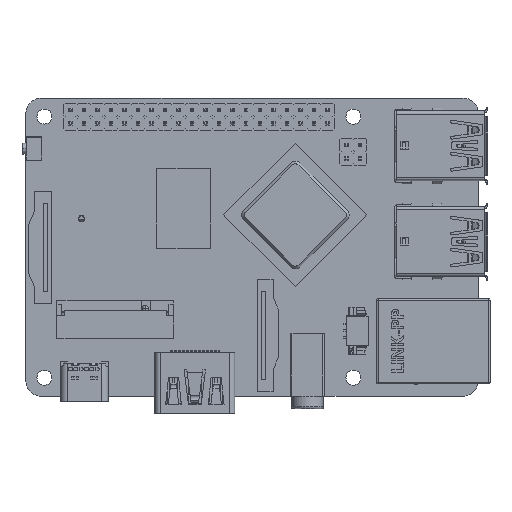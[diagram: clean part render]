
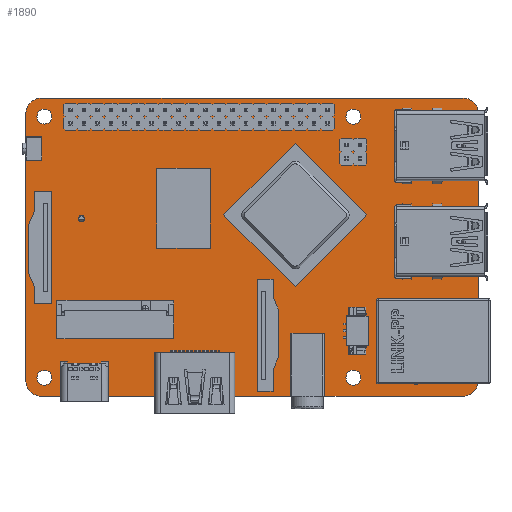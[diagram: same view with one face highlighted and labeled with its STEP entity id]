
A CAD part, top view. The second image highlights one B-rep face of the part: STEP entity #1890.
In plain terms, the highlighted planar face has unit normal (0, 0, 1).
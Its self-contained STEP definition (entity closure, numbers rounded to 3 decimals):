
#1287=CARTESIAN_POINT('',(-52.961,20.311,1.2));
#1288=DIRECTION('',(0.,0.,1.));
#1289=DIRECTION('',(0.,1.,0.));
#1290=AXIS2_PLACEMENT_3D('',#1287,#1288,#1289);
#1292=DIRECTION('',(-1.,0.,0.));
#1293=VECTOR('',#1292,79.032);
#1294=CARTESIAN_POINT('',(26.071,23.306,1.2));
#1295=LINE('',#1294,#1293);
#1296=CARTESIAN_POINT('',(26.071,20.333,1.2));
#1297=DIRECTION('',(0.,0.,1.));
#1298=DIRECTION('',(1.,0.,0.));
#1299=AXIS2_PLACEMENT_3D('',#1296,#1297,#1298);
#1301=DIRECTION('',(0.,1.,0.));
#1302=VECTOR('',#1301,49.938);
#1303=CARTESIAN_POINT('',(29.044,-29.605,1.2));
#1304=LINE('',#1303,#1302);
#1305=CARTESIAN_POINT('',(25.954,-29.605,1.2));
#1306=DIRECTION('',(0.,0.,1.));
#1307=DIRECTION('',(0.,-1.,0.));
#1308=AXIS2_PLACEMENT_3D('',#1305,#1306,#1307);
#1310=DIRECTION('',(1.,0.,0.));
#1311=VECTOR('',#1310,78.901);
#1312=CARTESIAN_POINT('',(-52.947,-32.694,1.2));
#1313=LINE('',#1312,#1311);
#1314=CARTESIAN_POINT('',(-52.947,-29.685,1.2));
#1315=DIRECTION('',(0.,0.,1.));
#1316=DIRECTION('',(-1.,0.,0.));
#1317=AXIS2_PLACEMENT_3D('',#1314,#1315,#1316);
#1319=DIRECTION('',(0.,-1.,0.));
#1320=VECTOR('',#1319,49.995);
#1321=CARTESIAN_POINT('',(-55.956,20.311,1.2));
#1322=LINE('',#1321,#1320);
#1323=CARTESIAN_POINT('',(-52.451,19.811,1.2));
#1324=DIRECTION('',(0.,0.,-1.));
#1325=DIRECTION('',(1.,0.,0.));
#1326=AXIS2_PLACEMENT_3D('',#1323,#1324,#1325);
#1328=CARTESIAN_POINT('',(-52.451,19.811,1.2));
#1329=DIRECTION('',(0.,0.,-1.));
#1330=DIRECTION('',(-1.,0.,0.));
#1331=AXIS2_PLACEMENT_3D('',#1328,#1329,#1330);
#1333=CARTESIAN_POINT('',(-52.458,-29.193,1.2));
#1334=DIRECTION('',(0.,0.,-1.));
#1335=DIRECTION('',(1.,0.,0.));
#1336=AXIS2_PLACEMENT_3D('',#1333,#1334,#1335);
#1338=CARTESIAN_POINT('',(-52.458,-29.193,1.2));
#1339=DIRECTION('',(0.,0.,-1.));
#1340=DIRECTION('',(-1.,0.,0.));
#1341=AXIS2_PLACEMENT_3D('',#1338,#1339,#1340);
#1343=CARTESIAN_POINT('',(5.543,19.808,1.2));
#1344=DIRECTION('',(0.,0.,-1.));
#1345=DIRECTION('',(1.,0.,0.));
#1346=AXIS2_PLACEMENT_3D('',#1343,#1344,#1345);
#1348=CARTESIAN_POINT('',(5.543,19.808,1.2));
#1349=DIRECTION('',(0.,0.,-1.));
#1350=DIRECTION('',(-1.,0.,0.));
#1351=AXIS2_PLACEMENT_3D('',#1348,#1349,#1350);
#1353=CARTESIAN_POINT('',(5.543,-29.187,1.2));
#1354=DIRECTION('',(0.,0.,-1.));
#1355=DIRECTION('',(1.,0.,0.));
#1356=AXIS2_PLACEMENT_3D('',#1353,#1354,#1355);
#1358=CARTESIAN_POINT('',(5.543,-29.187,1.2));
#1359=DIRECTION('',(0.,0.,-1.));
#1360=DIRECTION('',(-1.,0.,0.));
#1361=AXIS2_PLACEMENT_3D('',#1358,#1359,#1360);
#1363=CARTESIAN_POINT('',(-49.15,-16.818,1.2));
#1364=DIRECTION('',(0.,0.,1.));
#1365=DIRECTION('',(1.,0.,0.));
#1366=AXIS2_PLACEMENT_3D('',#1363,#1364,#1365);
#1368=CARTESIAN_POINT('',(-49.15,-16.818,1.2));
#1369=DIRECTION('',(0.,0.,1.));
#1370=DIRECTION('',(-1.,0.,0.));
#1371=AXIS2_PLACEMENT_3D('',#1368,#1369,#1370);
#1373=CARTESIAN_POINT('',(-29.15,-16.818,1.2));
#1374=DIRECTION('',(0.,0.,1.));
#1375=DIRECTION('',(1.,0.,0.));
#1376=AXIS2_PLACEMENT_3D('',#1373,#1374,#1375);
#1378=CARTESIAN_POINT('',(-29.15,-16.818,1.2));
#1379=DIRECTION('',(0.,0.,1.));
#1380=DIRECTION('',(-1.,0.,0.));
#1381=AXIS2_PLACEMENT_3D('',#1378,#1379,#1380);
#1383=CARTESIAN_POINT('',(-45.485,0.645,1.2));
#1384=DIRECTION('',(0.,0.,-1.));
#1385=DIRECTION('',(0.,-1.,0.));
#1386=AXIS2_PLACEMENT_3D('',#1383,#1384,#1385);
#1388=CARTESIAN_POINT('',(-45.485,0.645,1.2));
#1389=DIRECTION('',(0.,0.,-1.));
#1390=DIRECTION('',(0.,1.,0.));
#1391=AXIS2_PLACEMENT_3D('',#1388,#1389,#1390);
#1393=CARTESIAN_POINT('',(-45.485,-19.355,1.2));
#1394=DIRECTION('',(0.,0.,-1.));
#1395=DIRECTION('',(0.,-1.,0.));
#1396=AXIS2_PLACEMENT_3D('',#1393,#1394,#1395);
#1398=CARTESIAN_POINT('',(-45.485,-19.355,1.2));
#1399=DIRECTION('',(0.,0.,-1.));
#1400=DIRECTION('',(0.,1.,0.));
#1401=AXIS2_PLACEMENT_3D('',#1398,#1399,#1400);
#1495=CARTESIAN_POINT('',(-52.961,23.306,1.2));
#1496=CARTESIAN_POINT('',(-55.956,20.311,1.2));
#1497=VERTEX_POINT('',#1495);
#1498=VERTEX_POINT('',#1496);
#1499=CARTESIAN_POINT('',(-55.956,-29.685,1.2));
#1500=VERTEX_POINT('',#1499);
#1501=CARTESIAN_POINT('',(-52.947,-32.694,1.2));
#1502=VERTEX_POINT('',#1501);
#1503=CARTESIAN_POINT('',(25.954,-32.694,1.2));
#1504=VERTEX_POINT('',#1503);
#1505=CARTESIAN_POINT('',(29.044,-29.605,1.2));
#1506=VERTEX_POINT('',#1505);
#1507=CARTESIAN_POINT('',(29.044,20.333,1.2));
#1508=VERTEX_POINT('',#1507);
#1509=CARTESIAN_POINT('',(26.071,23.306,1.2));
#1510=VERTEX_POINT('',#1509);
#1511=CARTESIAN_POINT('',(-51.051,19.811,1.2));
#1512=CARTESIAN_POINT('',(-53.851,19.811,1.2));
#1513=VERTEX_POINT('',#1511);
#1514=VERTEX_POINT('',#1512);
#1515=CARTESIAN_POINT('',(-51.058,-29.193,1.2));
#1516=CARTESIAN_POINT('',(-53.858,-29.193,1.2));
#1517=VERTEX_POINT('',#1515);
#1518=VERTEX_POINT('',#1516);
#1519=CARTESIAN_POINT('',(6.943,19.808,1.2));
#1520=CARTESIAN_POINT('',(4.143,19.808,1.2));
#1521=VERTEX_POINT('',#1519);
#1522=VERTEX_POINT('',#1520);
#1523=CARTESIAN_POINT('',(6.943,-29.187,1.2));
#1524=CARTESIAN_POINT('',(4.143,-29.187,1.2));
#1525=VERTEX_POINT('',#1523);
#1526=VERTEX_POINT('',#1524);
#1535=CARTESIAN_POINT('',(-48.3,-16.818,1.2));
#1536=CARTESIAN_POINT('',(-50.,-16.818,1.2));
#1537=VERTEX_POINT('',#1535);
#1538=VERTEX_POINT('',#1536);
#1539=CARTESIAN_POINT('',(-28.55,-16.818,1.2));
#1540=CARTESIAN_POINT('',(-29.75,-16.818,1.2));
#1541=VERTEX_POINT('',#1539);
#1542=VERTEX_POINT('',#1540);
#1551=CARTESIAN_POINT('',(-45.485,0.045,1.2));
#1552=CARTESIAN_POINT('',(-45.485,1.245,1.2));
#1553=VERTEX_POINT('',#1551);
#1554=VERTEX_POINT('',#1552);
#1555=CARTESIAN_POINT('',(-45.485,-19.855,1.2));
#1556=CARTESIAN_POINT('',(-45.485,-18.855,1.2));
#1557=VERTEX_POINT('',#1555);
#1558=VERTEX_POINT('',#1556);
#1828=CARTESIAN_POINT('',(0.,0.,1.2));
#1829=DIRECTION('',(0.,0.,1.));
#1830=DIRECTION('',(1.,0.,0.));
#1831=AXIS2_PLACEMENT_3D('',#1828,#1829,#1830);
#1832=PLANE('',#1831);
#1833=ORIENTED_EDGE('',*,*,#1668,.F.);
#1834=ORIENTED_EDGE('',*,*,#1690,.F.);
#1835=ORIENTED_EDGE('',*,*,#1711,.F.);
#1836=ORIENTED_EDGE('',*,*,#1732,.F.);
#1837=ORIENTED_EDGE('',*,*,#1753,.F.);
#1838=ORIENTED_EDGE('',*,*,#1774,.F.);
#1839=ORIENTED_EDGE('',*,*,#1795,.F.);
#1840=ORIENTED_EDGE('',*,*,#1815,.F.);
#1841=EDGE_LOOP('',(#1833,#1834,#1835,#1836,#1837,#1838,#1839,#1840));
#1842=FACE_OUTER_BOUND('',#1841,.F.);
#1844=ORIENTED_EDGE('',*,*,#1843,.F.);
#1846=ORIENTED_EDGE('',*,*,#1845,.F.);
#1847=EDGE_LOOP('',(#1844,#1846));
#1848=FACE_BOUND('',#1847,.F.);
#1850=ORIENTED_EDGE('',*,*,#1849,.F.);
#1851=ORIENTED_EDGE('',*,*,#1568,.F.);
#1852=EDGE_LOOP('',(#1850,#1851));
#1853=FACE_BOUND('',#1852,.F.);
#1855=ORIENTED_EDGE('',*,*,#1854,.F.);
#1857=ORIENTED_EDGE('',*,*,#1856,.F.);
#1858=EDGE_LOOP('',(#1855,#1857));
#1859=FACE_BOUND('',#1858,.F.);
#1861=ORIENTED_EDGE('',*,*,#1860,.F.);
#1863=ORIENTED_EDGE('',*,*,#1862,.F.);
#1864=EDGE_LOOP('',(#1861,#1863));
#1865=FACE_BOUND('',#1864,.F.);
#1867=ORIENTED_EDGE('',*,*,#1866,.T.);
#1869=ORIENTED_EDGE('',*,*,#1868,.T.);
#1870=EDGE_LOOP('',(#1867,#1869));
#1871=FACE_BOUND('',#1870,.F.);
#1873=ORIENTED_EDGE('',*,*,#1872,.T.);
#1875=ORIENTED_EDGE('',*,*,#1874,.T.);
#1876=EDGE_LOOP('',(#1873,#1875));
#1877=FACE_BOUND('',#1876,.F.);
#1879=ORIENTED_EDGE('',*,*,#1878,.F.);
#1881=ORIENTED_EDGE('',*,*,#1880,.F.);
#1882=EDGE_LOOP('',(#1879,#1881));
#1883=FACE_BOUND('',#1882,.F.);
#1885=ORIENTED_EDGE('',*,*,#1884,.F.);
#1887=ORIENTED_EDGE('',*,*,#1886,.F.);
#1888=EDGE_LOOP('',(#1885,#1887));
#1889=FACE_BOUND('',#1888,.F.);
#1890=ADVANCED_FACE('',(#1842,#1848,#1853,#1859,#1865,#1871,#1877,#1883,#1889),
#1832,.T.);
#1291=CIRCLE('',#1290,2.995);
#1300=CIRCLE('',#1299,2.973);
#1309=CIRCLE('',#1308,3.09);
#1318=CIRCLE('',#1317,3.009);
#1327=CIRCLE('',#1326,1.4);
#1332=CIRCLE('',#1331,1.4);
#1337=CIRCLE('',#1336,1.4);
#1342=CIRCLE('',#1341,1.4);
#1347=CIRCLE('',#1346,1.4);
#1352=CIRCLE('',#1351,1.4);
#1357=CIRCLE('',#1356,1.4);
#1362=CIRCLE('',#1361,1.4);
#1367=CIRCLE('',#1366,0.85);
#1372=CIRCLE('',#1371,0.85);
#1377=CIRCLE('',#1376,0.6);
#1382=CIRCLE('',#1381,0.6);
#1387=CIRCLE('',#1386,0.6);
#1392=CIRCLE('',#1391,0.6);
#1397=CIRCLE('',#1396,0.5);
#1402=CIRCLE('',#1401,0.5);
#1568=EDGE_CURVE('',#1518,#1517,#1342,.T.);
#1668=EDGE_CURVE('',#1497,#1498,#1291,.T.);
#1690=EDGE_CURVE('',#1510,#1497,#1295,.T.);
#1711=EDGE_CURVE('',#1508,#1510,#1300,.T.);
#1732=EDGE_CURVE('',#1506,#1508,#1304,.T.);
#1753=EDGE_CURVE('',#1504,#1506,#1309,.T.);
#1774=EDGE_CURVE('',#1502,#1504,#1313,.T.);
#1795=EDGE_CURVE('',#1500,#1502,#1318,.T.);
#1815=EDGE_CURVE('',#1498,#1500,#1322,.T.);
#1843=EDGE_CURVE('',#1513,#1514,#1327,.T.);
#1845=EDGE_CURVE('',#1514,#1513,#1332,.T.);
#1849=EDGE_CURVE('',#1517,#1518,#1337,.T.);
#1854=EDGE_CURVE('',#1521,#1522,#1347,.T.);
#1856=EDGE_CURVE('',#1522,#1521,#1352,.T.);
#1860=EDGE_CURVE('',#1525,#1526,#1357,.T.);
#1862=EDGE_CURVE('',#1526,#1525,#1362,.T.);
#1866=EDGE_CURVE('',#1537,#1538,#1367,.T.);
#1868=EDGE_CURVE('',#1538,#1537,#1372,.T.);
#1872=EDGE_CURVE('',#1541,#1542,#1377,.T.);
#1874=EDGE_CURVE('',#1542,#1541,#1382,.T.);
#1878=EDGE_CURVE('',#1553,#1554,#1387,.T.);
#1880=EDGE_CURVE('',#1554,#1553,#1392,.T.);
#1884=EDGE_CURVE('',#1557,#1558,#1397,.T.);
#1886=EDGE_CURVE('',#1558,#1557,#1402,.T.);
